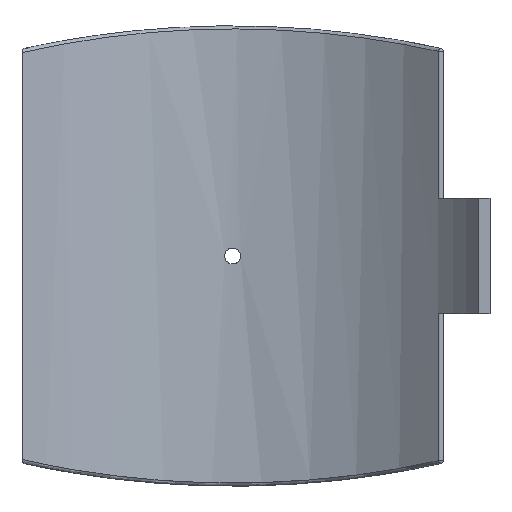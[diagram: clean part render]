
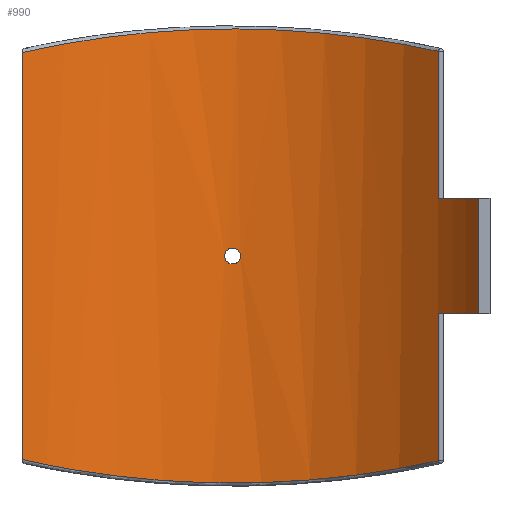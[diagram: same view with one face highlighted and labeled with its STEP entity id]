
A CAD part, front view. The second image highlights one B-rep face of the part: STEP entity #990.
In plain terms, the highlighted cylindrical face has radius 200 mm (diameter 400 mm), a partial arc.
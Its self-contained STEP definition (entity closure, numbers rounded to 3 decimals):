
#55=FACE_BOUND('',#331,.T.);
#101=B_SPLINE_CURVE_WITH_KNOTS('',3,(#2078,#2079,#2080,#2081,#2082,#2083,
#2084,#2085,#2086,#2087),.UNSPECIFIED.,.F.,.F.,(4,1,1,1,1,1,1,4),(-34.596,
-30.27,-25.944,-21.619,-17.293,
-12.967,-8.641,-4.316),.UNSPECIFIED.);
#102=B_SPLINE_CURVE_WITH_KNOTS('',3,(#2096,#2097,#2098,#2099,#2100,#2101,
#2102,#2103,#2104,#2105),.UNSPECIFIED.,.F.,.F.,(4,1,1,1,1,1,1,4),(-32.607,
-28.281,-23.956,-19.63,-15.304,
-10.978,-6.653,-2.327),.UNSPECIFIED.);
#103=B_SPLINE_CURVE_WITH_KNOTS('',3,(#2108,#2109,#2110,#2111,#2112,#2113,
#2114,#2115,#2116,#2117),.UNSPECIFIED.,.F.,.F.,(4,2,2,2,4),(0.,0.196,
0.392,0.588,0.784),.UNSPECIFIED.);
#104=B_SPLINE_CURVE_WITH_KNOTS('',3,(#2118,#2119,#2120,#2121,#2122,#2123,
#2124,#2125,#2126,#2127,#2128,#2129,#2130,#2131,#2132,#2133,#2134,#2135,
#2136,#2137,#2138,#2139,#2140,#2141,#2142,#2143),.UNSPECIFIED.,.F.,.F.,
(4,2,2,2,2,2,2,2,2,2,2,2,4),(0.784,0.979,1.175,
1.371,1.567,1.763,1.959,2.155,
2.351,2.547,2.742,2.938,3.134),
 .UNSPECIFIED.);
#125=LINE('',#1483,#172);
#136=LINE('',#1767,#183);
#143=LINE('',#2092,#190);
#144=LINE('',#2095,#191);
#172=VECTOR('',#1188,10.);
#183=VECTOR('',#1227,10.);
#190=VECTOR('',#1264,10.);
#191=VECTOR('',#1267,10.);
#228=CYLINDRICAL_SURFACE('',#1083,200.);
#268=FACE_OUTER_BOUND('',#330,.T.);
#330=EDGE_LOOP('',(#775,#776,#777,#778,#779,#780,#781,#782));
#331=EDGE_LOOP('',(#783,#784));
#413=CIRCLE('',#1084,200.);
#414=CIRCLE('',#1085,200.);
#466=VERTEX_POINT('',#1474);
#469=VERTEX_POINT('',#1481);
#489=VERTEX_POINT('',#1760);
#492=VERTEX_POINT('',#1765);
#505=VERTEX_POINT('',#2061);
#506=VERTEX_POINT('',#2089);
#507=VERTEX_POINT('',#2091);
#508=VERTEX_POINT('',#2094);
#509=VERTEX_POINT('',#2106);
#510=VERTEX_POINT('',#2107);
#561=EDGE_CURVE('',#469,#466,#125,.T.);
#591=EDGE_CURVE('',#492,#489,#136,.T.);
#614=EDGE_CURVE('',#505,#492,#101,.T.);
#615=EDGE_CURVE('',#506,#469,#413,.T.);
#616=EDGE_CURVE('',#506,#507,#143,.T.);
#617=EDGE_CURVE('',#489,#507,#414,.T.);
#618=EDGE_CURVE('',#508,#505,#144,.T.);
#619=EDGE_CURVE('',#466,#508,#102,.T.);
#620=EDGE_CURVE('',#509,#510,#103,.T.);
#621=EDGE_CURVE('',#510,#509,#104,.T.);
#775=ORIENTED_EDGE('',*,*,#615,.F.);
#776=ORIENTED_EDGE('',*,*,#616,.T.);
#777=ORIENTED_EDGE('',*,*,#617,.F.);
#778=ORIENTED_EDGE('',*,*,#591,.F.);
#779=ORIENTED_EDGE('',*,*,#614,.F.);
#780=ORIENTED_EDGE('',*,*,#618,.F.);
#781=ORIENTED_EDGE('',*,*,#619,.F.);
#782=ORIENTED_EDGE('',*,*,#561,.F.);
#783=ORIENTED_EDGE('',*,*,#620,.T.);
#784=ORIENTED_EDGE('',*,*,#621,.T.);
#990=ADVANCED_FACE('',(#268,#55),#228,.F.);
#1083=AXIS2_PLACEMENT_3D('',#2088,#1260,#1261);
#1084=AXIS2_PLACEMENT_3D('',#2090,#1262,#1263);
#1085=AXIS2_PLACEMENT_3D('',#2093,#1265,#1266);
#1188=DIRECTION('',(0.,0.,-1.));
#1227=DIRECTION('',(0.,0.,-1.));
#1260=DIRECTION('center_axis',(0.,0.,1.));
#1261=DIRECTION('ref_axis',(-1.,0.,0.));
#1262=DIRECTION('center_axis',(0.,0.,1.));
#1263=DIRECTION('ref_axis',(-0.802,-0.597,0.));
#1264=DIRECTION('',(0.,0.,1.));
#1265=DIRECTION('center_axis',(0.,0.,-1.));
#1266=DIRECTION('ref_axis',(-0.802,-0.597,0.));
#1267=DIRECTION('',(0.,0.,1.));
#1474=CARTESIAN_POINT('',(133.911,148.553,-133.392));
#1481=CARTESIAN_POINT('',(133.911,148.553,-37.5));
#1483=CARTESIAN_POINT('',(133.911,148.553,0.));
#1760=CARTESIAN_POINT('',(133.911,148.553,37.5));
#1765=CARTESIAN_POINT('',(133.911,148.553,133.392));
#1767=CARTESIAN_POINT('',(133.911,148.553,0.));
#2061=CARTESIAN_POINT('',(-137.25,145.473,132.645));
#2078=CARTESIAN_POINT('Ctrl Pts',(-137.25,145.473,132.645));
#2079=CARTESIAN_POINT('Ctrl Pts',(-127.001,155.143,134.967));
#2080=CARTESIAN_POINT('Ctrl Pts',(-104.444,172.321,139.526));
#2081=CARTESIAN_POINT('Ctrl Pts',(-65.756,190.492,144.959));
#2082=CARTESIAN_POINT('Ctrl Pts',(-23.856,200.118,148.035));
#2083=CARTESIAN_POINT('Ctrl Pts',(19.244,200.617,148.199));
#2084=CARTESIAN_POINT('Ctrl Pts',(61.375,191.949,145.415));
#2085=CARTESIAN_POINT('Ctrl Pts',(100.493,174.658,140.197));
#2086=CARTESIAN_POINT('Ctrl Pts',(123.444,157.988,135.703));
#2087=CARTESIAN_POINT('Ctrl Pts',(133.911,148.553,133.392));
#2088=CARTESIAN_POINT('Origin',(0.,0.,0.));
#2089=CARTESIAN_POINT('',(160.388,119.48,-37.5));
#2090=CARTESIAN_POINT('Origin',(0.,0.,
-37.5));
#2091=CARTESIAN_POINT('',(160.388,119.48,37.5));
#2092=CARTESIAN_POINT('',(160.388,119.48,0.));
#2093=CARTESIAN_POINT('Origin',(0.,0.,
37.5));
#2094=CARTESIAN_POINT('',(-137.25,145.473,-132.645));
#2095=CARTESIAN_POINT('',(-137.25,145.473,0.));
#2096=CARTESIAN_POINT('Ctrl Pts',(133.911,148.553,-133.392));
#2097=CARTESIAN_POINT('Ctrl Pts',(123.444,157.988,-135.703));
#2098=CARTESIAN_POINT('Ctrl Pts',(100.492,174.657,-140.197));
#2099=CARTESIAN_POINT('Ctrl Pts',(61.375,191.95,-145.416));
#2100=CARTESIAN_POINT('Ctrl Pts',(19.244,200.615,-148.198));
#2101=CARTESIAN_POINT('Ctrl Pts',(-23.856,200.119,-148.036));
#2102=CARTESIAN_POINT('Ctrl Pts',(-65.755,190.491,-144.958));
#2103=CARTESIAN_POINT('Ctrl Pts',(-104.445,172.322,-139.527));
#2104=CARTESIAN_POINT('Ctrl Pts',(-127.001,155.143,-134.967));
#2105=CARTESIAN_POINT('Ctrl Pts',(-137.25,145.473,-132.645));
#2106=CARTESIAN_POINT('',(5.2,199.932,0.));
#2107=CARTESIAN_POINT('',(0.,200.,-5.2));
#2108=CARTESIAN_POINT('Ctrl Pts',(5.2,199.932,0.));
#2109=CARTESIAN_POINT('Ctrl Pts',(5.2,199.932,-0.653));
#2110=CARTESIAN_POINT('Ctrl Pts',(5.07,199.936,-1.349));
#2111=CARTESIAN_POINT('Ctrl Pts',(4.539,199.949,-2.631));
#2112=CARTESIAN_POINT('Ctrl Pts',(4.139,199.958,-3.215));
#2113=CARTESIAN_POINT('Ctrl Pts',(3.215,199.975,-4.139));
#2114=CARTESIAN_POINT('Ctrl Pts',(2.631,199.984,-4.539));
#2115=CARTESIAN_POINT('Ctrl Pts',(1.349,199.996,-5.07));
#2116=CARTESIAN_POINT('Ctrl Pts',(0.653,200.,-5.2));
#2117=CARTESIAN_POINT('Ctrl Pts',(0.,200.,-5.2));
#2118=CARTESIAN_POINT('Ctrl Pts',(0.,200.,-5.2));
#2119=CARTESIAN_POINT('Ctrl Pts',(-0.653,200.,-5.2));
#2120=CARTESIAN_POINT('Ctrl Pts',(-1.349,199.996,-5.07));
#2121=CARTESIAN_POINT('Ctrl Pts',(-2.631,199.984,-4.539));
#2122=CARTESIAN_POINT('Ctrl Pts',(-3.215,199.975,-4.139));
#2123=CARTESIAN_POINT('Ctrl Pts',(-4.139,199.958,-3.215));
#2124=CARTESIAN_POINT('Ctrl Pts',(-4.539,199.949,-2.631));
#2125=CARTESIAN_POINT('Ctrl Pts',(-5.07,199.936,-1.349));
#2126=CARTESIAN_POINT('Ctrl Pts',(-5.2,199.932,-0.653));
#2127=CARTESIAN_POINT('Ctrl Pts',(-5.2,199.932,0.653));
#2128=CARTESIAN_POINT('Ctrl Pts',(-5.07,199.936,1.349));
#2129=CARTESIAN_POINT('Ctrl Pts',(-4.539,199.949,2.631));
#2130=CARTESIAN_POINT('Ctrl Pts',(-4.139,199.958,3.215));
#2131=CARTESIAN_POINT('Ctrl Pts',(-3.215,199.975,4.139));
#2132=CARTESIAN_POINT('Ctrl Pts',(-2.631,199.984,4.539));
#2133=CARTESIAN_POINT('Ctrl Pts',(-1.349,199.996,5.07));
#2134=CARTESIAN_POINT('Ctrl Pts',(-0.653,200.,5.2));
#2135=CARTESIAN_POINT('Ctrl Pts',(0.653,200.,5.2));
#2136=CARTESIAN_POINT('Ctrl Pts',(1.349,199.996,5.07));
#2137=CARTESIAN_POINT('Ctrl Pts',(2.631,199.984,4.539));
#2138=CARTESIAN_POINT('Ctrl Pts',(3.215,199.975,4.139));
#2139=CARTESIAN_POINT('Ctrl Pts',(4.139,199.958,3.215));
#2140=CARTESIAN_POINT('Ctrl Pts',(4.539,199.949,2.631));
#2141=CARTESIAN_POINT('Ctrl Pts',(5.07,199.936,1.349));
#2142=CARTESIAN_POINT('Ctrl Pts',(5.2,199.932,0.653));
#2143=CARTESIAN_POINT('Ctrl Pts',(5.2,199.932,0.));
